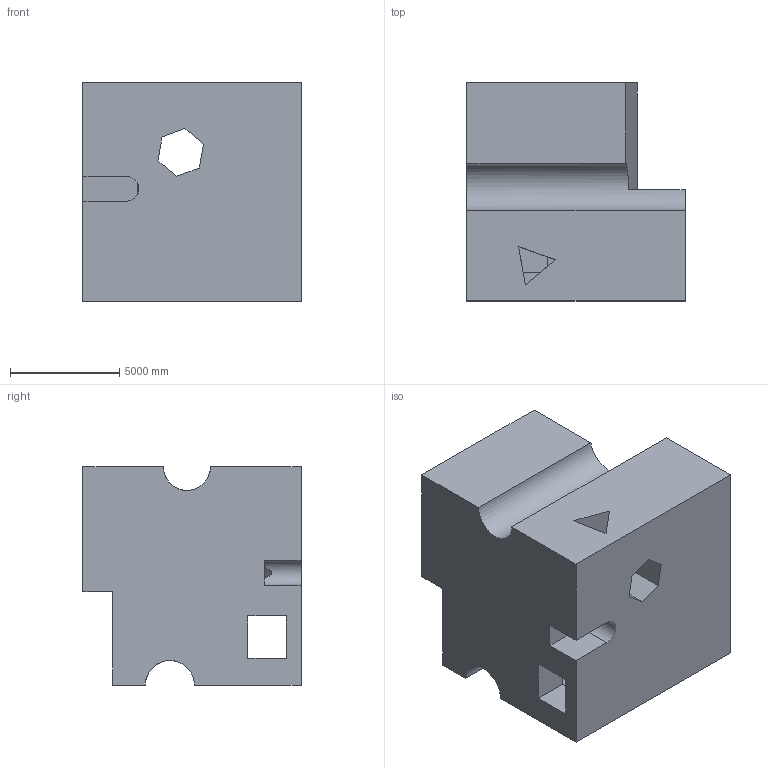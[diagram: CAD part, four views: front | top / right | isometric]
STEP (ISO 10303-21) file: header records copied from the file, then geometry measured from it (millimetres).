
FILE_DESCRIPTION (( 'STEP AP203' ), '1' );
FILE_NAME ('957.STEP', '2022-07-29T14:40:44', ( 'user' ), ( '' ), 'SwSTEP 2.0', 'SolidWorks 2021', '' );
FILE_SCHEMA (( 'CONFIG_CONTROL_DESIGN' ));
Length unit declared in the file: centimetre
Products named in the file (1): 957
Bounding box: 10000 x 10000 x 10000 mm (x, y, z)
Volume: 680559222206.9 mm3; surface area: 778421000.3 mm2
Topology: 1 solids, 1 shells, 55 faces, 177 edges, 118 vertices
Faces by surface type: plane 52, cylinder 3
Entity records: 2025 total; most frequent: CARTESIAN_POINT 360, ORIENTED_EDGE 354, DIRECTION 295, EDGE_CURVE 177, LINE 165, VECTOR 165, VERTEX_POINT 118, AXIS2_PLACEMENT_3D 65
